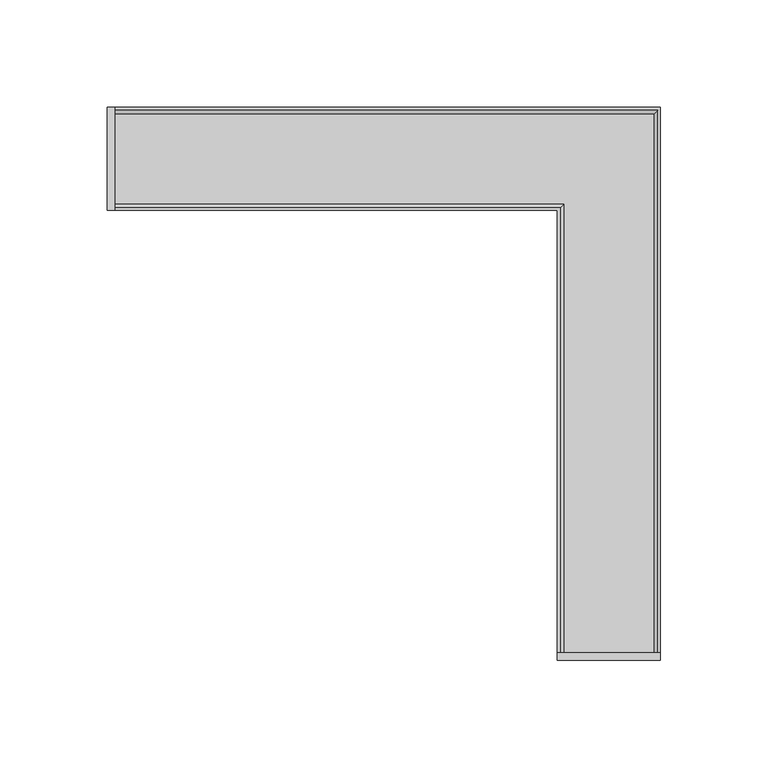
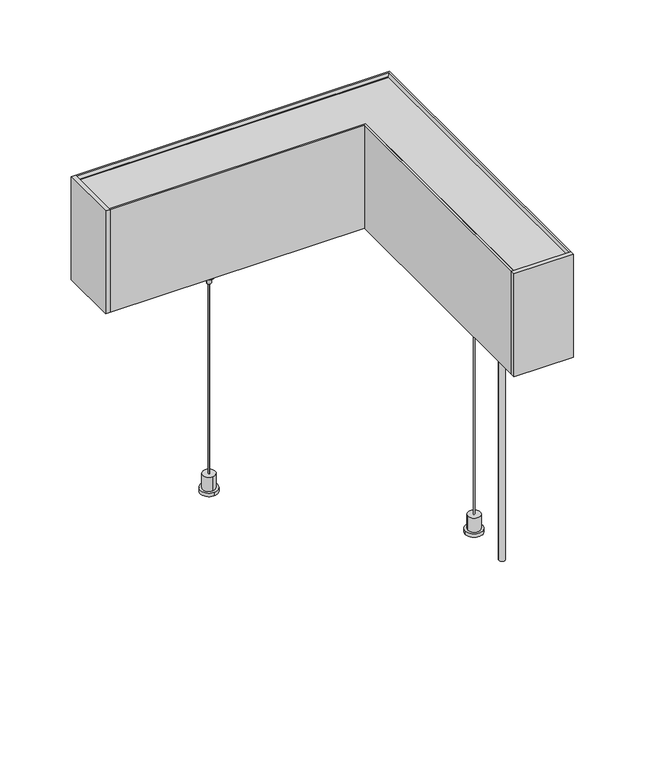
"""IFC4 building model written with IfcOpenShell, lengths in millimetres: light fixture geometry, KLUŚ - SERPENT - ZW L90 : Silver Anodized - 3000 K - 1190 lm - up, down."""

from ifc_helpers import new_model, si_unit, point, frame, frame_2d, origin, origin_with_axes, place, context, project, spatial, polyline, circle_curve, trimmed, segment, composite_curve, outline, extrude, faceted_brep, source, transform, mapped, element, save
from ifc_brep_helpers import plane_surface, revolved_surface, advanced_brep


def light_fixture_445db888(model_context):
    return source(origin(), model_context, "Body", "SolidModel", [
        advanced_brep(
        [(119.0, -20.85, 195.8), (111.0, -20.85, 195.8), (111.0, -20.85, 195.0), (119.0, -20.85, 195.0), (129.0, -34.85, 195.0), (134.95, -34.85, 200.3344882), (134.95, -34.85, 209.5), (134.15, -34.85, 209.5), (134.15, -34.85, 200.691693), (128.6938864, -34.85, 195.8), (101.3061136, -34.85, 195.8), (95.85, -34.85, 200.691693), (95.85, -34.85, 209.5), (95.05, -34.85, 209.5), (95.05, -34.85, 200.3344882), (101.0, -34.85, 195.0), (129.0, -6.85, 195.0), (101.0, -6.85, 195.0), (95.05, -6.85, 200.3344882), (95.05, -6.85, 209.5), (95.85, -6.85, 209.5), (95.85, -6.85, 200.691693), (101.3061136, -6.85, 195.8), (128.6938864, -6.85, 195.8), (134.15, -6.85, 200.691693), (134.15, -6.85, 209.5), (134.95, -6.85, 209.5), (134.95, -6.85, 200.3344882)],
        [
            (0, 1, circle_curve(frame((115.0, -20.85, 195.8), z_axis=(0.0, 0.0, 1.0), x_axis=(1.0, 0.0, 0.0)), 4.0)),
            (1, 2),
            (2, 3, circle_curve(frame((115.0, -20.85, 195.0), z_axis=(0.0, 0.0, -1.0), x_axis=(1.0, 0.0, 0.0)), 4.0)),
            (3, 0),
            (3, 2, circle_curve(frame((115.0, -20.85, 195.0), z_axis=(0.0, 0.0, -1.0), x_axis=(1.0, 0.0, 0.0)), 4.0)),
            (1, 0, circle_curve(frame((115.0, -20.85, 195.8), z_axis=(0.0, 0.0, 1.0), x_axis=(1.0, 0.0, 0.0)), 4.0)),
            (4, 5),
            (5, 6),
            (6, 7),
            (7, 8),
            (8, 9),
            (9, 10),
            (10, 11),
            (11, 12),
            (12, 13),
            (13, 14),
            (14, 15),
            (15, 4),
            (16, 17),
            (17, 18),
            (18, 19),
            (19, 20),
            (20, 21),
            (21, 22),
            (22, 23),
            (23, 24),
            (24, 25),
            (25, 26),
            (26, 27),
            (27, 16),
            (15, 17),
            (16, 4),
            (14, 18),
            (13, 19),
            (12, 20),
            (11, 21),
            (10, 22),
            (9, 23),
            (8, 24),
            (7, 25),
            (6, 26),
            (5, 27),
        ],
        [
            revolved_surface(polyline([(119.0, -20.85, 195.8), (119.0, -20.85, 195.0)]), (115.0, -20.85, 195.0), (0.0, 0.0, 1.0)),
            plane_surface(frame((115.0, -34.85, 209.5), z_axis=(0.0, -1.0, 0.0), x_axis=(0.0, 0.0, 1.0))),
            plane_surface(frame((115.0, -6.85, 209.5), z_axis=(0.0, 1.0, 0.0), x_axis=(0.0, 0.0, 1.0))),
            plane_surface(frame((129.0, -34.85, 195.0), z_axis=(0.0, 0.0, -1.0), x_axis=(0.0, 1.0, 0.0))),
            plane_surface(frame((101.0, -34.85, 195.0), z_axis=(-0.6675453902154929, 0.0, -0.7445691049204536), x_axis=(0.0, 1.0, 0.0))),
            plane_surface(frame((95.05, -34.85, 200.3344882), z_axis=(-1.0, 0.0, 0.0), x_axis=(0.0, 1.0, 0.0))),
            plane_surface(frame((95.05, -34.85, 209.5), z_axis=(0.0, 0.0, 1.0), x_axis=(0.0, 1.0, 0.0))),
            plane_surface(frame((95.85, -34.85, 209.5), z_axis=(1.0, 0.0, 0.0), x_axis=(0.0, 1.0, 0.0))),
            plane_surface(frame((95.85, -34.85, 200.691693), z_axis=(0.6675453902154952, 0.0, 0.7445691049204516), x_axis=(0.0, 1.0, 0.0))),
            plane_surface(frame((101.3061136, -34.85, 195.8), z_axis=(0.0, 0.0, 1.0), x_axis=(0.0, 1.0, 0.0))),
            plane_surface(frame((128.6938864, -34.85, 195.8), z_axis=(-0.6675453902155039, 0.0, 0.7445691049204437), x_axis=(0.0, 1.0, 0.0))),
            plane_surface(frame((134.15, -34.85, 200.691693), z_axis=(-1.0, 0.0, 0.0), x_axis=(0.0, 1.0, 0.0))),
            plane_surface(frame((134.15, -34.85, 209.5), z_axis=(0.0, 0.0, 1.0), x_axis=(0.0, 1.0, 0.0))),
            plane_surface(frame((134.95, -34.85, 209.5), z_axis=(1.0, 0.0, 0.0), x_axis=(0.0, 1.0, 0.0))),
            plane_surface(frame((134.95, -34.85, 200.3344882), z_axis=(0.6675453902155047, 0.0, -0.7445691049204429), x_axis=(0.0, 1.0, 0.0))),
        ],
        [
            (0, [[1, 2, 3, 4]]),
            (0, [[5, -2, 6, -4]]),
            (1, [[7, 8, 9, 10, 11, 12, 13, 14, 15, 16, 17, 18]]),
            (2, [[19, 20, 21, 22, 23, 24, 25, 26, 27, 28, 29, 30]]),
            (3, [[31, -19, 32, -18], [-5, -3]]),
            (4, [[33, -20, -31, -17]]),
            (5, [[34, -21, -33, -16]]),
            (6, [[35, -22, -34, -15]]),
            (7, [[36, -23, -35, -14]]),
            (8, [[37, -24, -36, -13]]),
            (9, [[38, -25, -37, -12], [-6, -1]]),
            (10, [[39, -26, -38, -11]]),
            (11, [[40, -27, -39, -10]]),
            (12, [[41, -28, -40, -9]]),
            (13, [[42, -29, -41, -8]]),
            (14, [[-32, -30, -42, -7]]),
        ],
    ),
        extrude(outline(composite_curve([segment(trimmed(circle_curve(frame_2d((115.0, -20.85)), 0.5), [point((114.5, -20.85))], [point((115.5, -20.85))], False, "CARTESIAN"), True, "CONTINUOUS"), segment(trimmed(circle_curve(frame_2d((115.0, -20.85)), 0.5), [point((115.5, -20.85))], [point((114.5, -20.85))], False, "CARTESIAN"), True, "CONTINUOUS")], self_intersect=False)), frame((0.0, 0.0, 15.0), z_axis=(0.0, 0.0, 1.0), x_axis=(1.0, 0.0, 0.0)), (0.0, 0.0, 1.0), 163.0),
        extrude(outline(composite_curve([segment(trimmed(circle_curve(frame_2d((115.0, -20.85)), 5.0), [point((110.0, -20.85))], [point((120.0, -20.85))], False, "CARTESIAN"), True, "CONTINUOUS"), segment(trimmed(circle_curve(frame_2d((115.0, -20.85)), 5.0), [point((120.0, -20.85))], [point((110.0, -20.85))], False, "CARTESIAN"), True, "CONTINUOUS")], self_intersect=False)), frame((0.0, 0.0, 3.0), z_axis=(0.0, 0.0, 1.0), x_axis=(1.0, 0.0, 0.0)), (0.0, 0.0, 1.0), 12.0),
        extrude(outline(composite_curve([segment(trimmed(circle_curve(frame_2d((115.0, -20.85)), 7.0), [point((108.0, -20.85))], [point((122.0, -20.85))], False, "CARTESIAN"), True, "CONTINUOUS"), segment(trimmed(circle_curve(frame_2d((115.0, -20.85)), 7.0), [point((122.0, -20.85))], [point((108.0, -20.85))], False, "CARTESIAN"), True, "CONTINUOUS")], self_intersect=False)), origin_with_axes(), (0.0, 0.0, 1.0), 3.0),
        extrude(outline(composite_curve([segment(trimmed(circle_curve(frame_2d((115.0, -20.85)), 1.75), [point((115.0, -19.1))], [point((115.0, -22.6))], False, "CARTESIAN"), True, "CONTINUOUS"), segment(trimmed(circle_curve(frame_2d((115.0, -20.85)), 1.75), [point((115.0, -22.6))], [point((115.0, -19.1))], False, "CARTESIAN"), True, "CONTINUOUS")], self_intersect=False)), frame((0.0, 0.0, 178.0), z_axis=(0.0, 0.0, 1.0), x_axis=(1.0, 0.0, 0.0)), (0.0, 0.0, 1.0), 5.0),
        extrude(outline(composite_curve([segment(trimmed(circle_curve(frame_2d((115.0, -20.85)), 4.0), [point((111.0, -20.85))], [point((119.0, -20.85))], False, "CARTESIAN"), True, "CONTINUOUS"), segment(trimmed(circle_curve(frame_2d((115.0, -20.85)), 4.0), [point((119.0, -20.85))], [point((111.0, -20.85))], False, "CARTESIAN"), True, "CONTINUOUS")], self_intersect=False)), frame((0.0, 0.0, 183.0), z_axis=(0.0, 0.0, 1.0), x_axis=(1.0, 0.0, 0.0)), (0.0, 0.0, 1.0), 12.8),
        extrude(outline(composite_curve([segment(trimmed(circle_curve(frame_2d((115.0, -20.85)), 10.0), [point((105.0, -20.85))], [point((125.0, -20.85))], False, "CARTESIAN"), True, "CONTINUOUS"), segment(trimmed(circle_curve(frame_2d((115.0, -20.85)), 10.0), [point((125.0, -20.85))], [point((105.0, -20.85))], False, "CARTESIAN"), True, "CONTINUOUS")], self_intersect=False)), frame((0.0, 0.0, 195.8), z_axis=(0.0, 0.0, 1.0), x_axis=(1.0, 0.0, 0.0)), (0.0, 0.0, 1.0), 2.0),
        extrude(outline(polyline([(139.0, -118.5), (91.0, -118.5), (91.0, -115.0), (139.0, -115.0), (139.0, -118.5)])), frame((0.0, 0.0, 200.0), z_axis=(0.0, 0.0, 1.0), x_axis=(1.0, 0.0, 0.0)), (0.0, 0.0, 1.0), 88.0),
        extrude(outline(polyline([(-118.5, 91.0), (-118.5, 139.0), (-115.0, 139.0), (-115.0, 91.0), (-118.5, 91.0)])), frame((0.0, 0.0, 200.0), z_axis=(0.0, 0.0, 1.0), x_axis=(1.0, 0.0, 0.0)), (0.0, 0.0, 1.0), 88.0),
        advanced_brep(
        [(-21.0, 119.15, 195.8), (-21.0, 119.15, 195.0), (-21.0, 111.15, 195.0), (-21.0, 111.15, 195.8), (-35.0, 129.15, 195.0), (-35.0, 101.15, 195.0), (-35.0, 95.2, 200.3344882), (-35.0, 95.2, 209.5), (-35.0, 96.0, 209.5), (-35.0, 96.0, 200.691693), (-35.0, 101.4561136, 195.8), (-35.0, 128.8438864, 195.8), (-35.0, 134.3, 200.691693), (-35.0, 134.3, 209.5), (-35.0, 135.1, 209.5), (-35.0, 135.1, 200.3344882), (-7.0, 129.15, 195.0), (-7.0, 135.1, 200.3344882), (-7.0, 135.1, 209.5), (-7.0, 134.3, 209.5), (-7.0, 134.3, 200.691693), (-7.0, 128.8438864, 195.8), (-7.0, 101.4561136, 195.8), (-7.0, 96.0, 200.691693), (-7.0, 96.0, 209.5), (-7.0, 95.2, 209.5), (-7.0, 95.2, 200.3344882), (-7.0, 101.15, 195.0)],
        [
            (0, 1),
            (1, 2, circle_curve(frame((-21.0, 115.15, 195.0), z_axis=(0.0, 0.0, -1.0), x_axis=(0.0, 1.0, 0.0)), 4.0)),
            (2, 3),
            (3, 0, circle_curve(frame((-21.0, 115.15, 195.8), z_axis=(0.0, 0.0, 1.0), x_axis=(0.0, 1.0, 0.0)), 4.0)),
            (0, 3, circle_curve(frame((-21.0, 115.15, 195.8), z_axis=(0.0, 0.0, 1.0), x_axis=(0.0, 1.0, 0.0)), 4.0)),
            (2, 1, circle_curve(frame((-21.0, 115.15, 195.0), z_axis=(0.0, 0.0, -1.0), x_axis=(0.0, 1.0, 0.0)), 4.0)),
            (4, 5),
            (5, 6),
            (6, 7),
            (7, 8),
            (8, 9),
            (9, 10),
            (10, 11),
            (11, 12),
            (12, 13),
            (13, 14),
            (14, 15),
            (15, 4),
            (16, 17),
            (17, 18),
            (18, 19),
            (19, 20),
            (20, 21),
            (21, 22),
            (22, 23),
            (23, 24),
            (24, 25),
            (25, 26),
            (26, 27),
            (27, 16),
            (4, 16),
            (27, 5),
            (26, 6),
            (25, 7),
            (24, 8),
            (23, 9),
            (22, 10),
            (21, 11),
            (20, 12),
            (19, 13),
            (18, 14),
            (17, 15),
        ],
        [
            revolved_surface(polyline([(-21.0, 119.15, 195.8), (-21.0, 119.15, 195.0)]), (-21.0, 115.15, 195.0), (0.0, 0.0, 1.0)),
            plane_surface(frame((-35.0, 115.15, 209.5), z_axis=(-1.0, 0.0, 0.0), x_axis=(0.0, 0.0, 1.0))),
            plane_surface(frame((-7.0, 115.15, 209.5), z_axis=(1.0, 0.0, 0.0), x_axis=(0.0, 0.0, 1.0))),
            plane_surface(frame((-35.0, 129.15, 195.0), z_axis=(0.0, 0.0, -1.0), x_axis=(1.0, 0.0, 0.0))),
            plane_surface(frame((-35.0, 101.15, 195.0), z_axis=(0.0, -0.6675453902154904, -0.7445691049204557), x_axis=(1.0, 0.0, 0.0))),
            plane_surface(frame((-35.0, 95.2, 200.3344882), z_axis=(0.0, -1.0, 0.0), x_axis=(1.0, 0.0, 0.0))),
            plane_surface(frame((-35.0, 95.2, 209.5), z_axis=(0.0, 0.0, 1.0), x_axis=(1.0, 0.0, 0.0))),
            plane_surface(frame((-35.0, 96.0, 209.5), z_axis=(0.0, 1.0, 0.0), x_axis=(1.0, 0.0, 0.0))),
            plane_surface(frame((-35.0, 96.0, 200.691693), z_axis=(0.0, 0.6675453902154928, 0.7445691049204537), x_axis=(1.0, 0.0, 0.0))),
            plane_surface(frame((-35.0, 101.4561136, 195.8), z_axis=(0.0, 0.0, 1.0), x_axis=(1.0, 0.0, 0.0))),
            plane_surface(frame((-35.0, 128.8438864, 195.8), z_axis=(0.0, -0.6675453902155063, 0.7445691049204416), x_axis=(1.0, 0.0, 0.0))),
            plane_surface(frame((-35.0, 134.3, 200.691693), z_axis=(0.0, -1.0, 0.0), x_axis=(1.0, 0.0, 0.0))),
            plane_surface(frame((-35.0, 134.3, 209.5), z_axis=(0.0, 0.0, 1.0), x_axis=(1.0, 0.0, 0.0))),
            plane_surface(frame((-35.0, 135.1, 209.5), z_axis=(0.0, 1.0, 0.0), x_axis=(1.0, 0.0, 0.0))),
            plane_surface(frame((-35.0, 135.1, 200.3344882), z_axis=(0.0, 0.6675453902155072, -0.7445691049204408), x_axis=(1.0, 0.0, 0.0))),
        ],
        [
            (0, [[1, 2, 3, 4]]),
            (0, [[-1, 5, -3, 6]]),
            (1, [[7, 8, 9, 10, 11, 12, 13, 14, 15, 16, 17, 18]]),
            (2, [[19, 20, 21, 22, 23, 24, 25, 26, 27, 28, 29, 30]]),
            (3, [[-7, 31, -30, 32], [-2, -6]]),
            (4, [[-8, -32, -29, 33]]),
            (5, [[-9, -33, -28, 34]]),
            (6, [[-10, -34, -27, 35]]),
            (7, [[-11, -35, -26, 36]]),
            (8, [[-12, -36, -25, 37]]),
            (9, [[-13, -37, -24, 38], [-4, -5]]),
            (10, [[-14, -38, -23, 39]]),
            (11, [[-15, -39, -22, 40]]),
            (12, [[-16, -40, -21, 41]]),
            (13, [[-17, -41, -20, 42]]),
            (14, [[-18, -42, -19, -31]]),
        ],
    ),
        extrude(outline(composite_curve([segment(trimmed(circle_curve(frame_2d((-21.0, 115.15)), 0.5), [point((-21.0, 114.65))], [point((-21.0, 115.65))], False, "CARTESIAN"), True, "CONTINUOUS"), segment(trimmed(circle_curve(frame_2d((-21.0, 115.15)), 0.5), [point((-21.0, 115.65))], [point((-21.0, 114.65))], False, "CARTESIAN"), True, "CONTINUOUS")], self_intersect=False)), frame((0.0, 0.0, 15.0), z_axis=(0.0, 0.0, 1.0), x_axis=(1.0, 0.0, 0.0)), (0.0, 0.0, 1.0), 163.0),
        extrude(outline(composite_curve([segment(trimmed(circle_curve(frame_2d((-21.0, 115.15)), 5.0), [point((-21.0, 110.15))], [point((-21.0, 120.15))], False, "CARTESIAN"), True, "CONTINUOUS"), segment(trimmed(circle_curve(frame_2d((-21.0, 115.15)), 5.0), [point((-21.0, 120.15))], [point((-21.0, 110.15))], False, "CARTESIAN"), True, "CONTINUOUS")], self_intersect=False)), frame((0.0, 0.0, 3.0), z_axis=(0.0, 0.0, 1.0), x_axis=(1.0, 0.0, 0.0)), (0.0, 0.0, 1.0), 12.0),
        extrude(outline(composite_curve([segment(trimmed(circle_curve(frame_2d((-21.0, 115.15)), 7.0), [point((-21.0, 108.15))], [point((-21.0, 122.15))], False, "CARTESIAN"), True, "CONTINUOUS"), segment(trimmed(circle_curve(frame_2d((-21.0, 115.15)), 7.0), [point((-21.0, 122.15))], [point((-21.0, 108.15))], False, "CARTESIAN"), True, "CONTINUOUS")], self_intersect=False)), origin_with_axes(), (0.0, 0.0, 1.0), 3.0),
        extrude(outline(composite_curve([segment(trimmed(circle_curve(frame_2d((-21.0, 115.15)), 1.75), [point((-19.25, 115.15))], [point((-22.75, 115.15))], False, "CARTESIAN"), True, "CONTINUOUS"), segment(trimmed(circle_curve(frame_2d((-21.0, 115.15)), 1.75), [point((-22.75, 115.15))], [point((-19.25, 115.15))], False, "CARTESIAN"), True, "CONTINUOUS")], self_intersect=False)), frame((0.0, 0.0, 178.0), z_axis=(0.0, 0.0, 1.0), x_axis=(1.0, 0.0, 0.0)), (0.0, 0.0, 1.0), 5.0),
        extrude(outline(composite_curve([segment(trimmed(circle_curve(frame_2d((-21.0, 115.15)), 4.0), [point((-21.0, 111.15))], [point((-21.0, 119.15))], False, "CARTESIAN"), True, "CONTINUOUS"), segment(trimmed(circle_curve(frame_2d((-21.0, 115.15)), 4.0), [point((-21.0, 119.15))], [point((-21.0, 111.15))], False, "CARTESIAN"), True, "CONTINUOUS")], self_intersect=False)), frame((0.0, 0.0, 183.0), z_axis=(0.0, 0.0, 1.0), x_axis=(1.0, 0.0, 0.0)), (0.0, 0.0, 1.0), 12.8),
        extrude(outline(composite_curve([segment(trimmed(circle_curve(frame_2d((-21.0, 115.15)), 10.0), [point((-21.0, 105.15))], [point((-21.0, 125.15))], False, "CARTESIAN"), True, "CONTINUOUS"), segment(trimmed(circle_curve(frame_2d((-21.0, 115.15)), 10.0), [point((-21.0, 125.15))], [point((-21.0, 105.15))], False, "CARTESIAN"), True, "CONTINUOUS")], self_intersect=False)), frame((0.0, 0.0, 195.8), z_axis=(0.0, 0.0, 1.0), x_axis=(1.0, 0.0, 0.0)), (0.0, 0.0, 1.0), 2.0),
        faceted_brep([(-115.0, 95.05, 200.0), (-115.0, 91.0, 200.0), (-115.0, 91.0, 288.0), (-115.0, 92.35, 288.0), (-115.0, 93.8950868, 286.1989148), (-115.0, 92.35, 284.5), (-115.0, 92.35, 208.7), (-115.0, 95.05, 208.7), (95.05, -115.0, 200.0), (95.05, -115.0, 208.7), (92.35, -115.0, 208.7), (92.35, -115.0, 284.5), (93.8950868, -115.0, 286.1989148), (92.35, -115.0, 288.0), (91.0, -115.0, 288.0), (91.0, -115.0, 200.0), (95.05, 95.05, 200.0), (91.0, 91.0, 200.0), (91.0, 91.0, 288.0), (92.35, 92.35, 288.0), (93.8950868, 93.8950868, 286.1989148), (92.35, 92.35, 284.5), (92.35, 92.35, 208.7), (95.05, 95.05, 208.7)], [[[0, 1, 2, 3, 4, 5, 6, 7]], [[8, 9, 10, 11, 12, 13, 14, 15]], [[1, 0, 16, 8, 15, 17]], [[2, 1, 17, 18]], [[3, 2, 18, 14, 13, 19]], [[4, 3, 19, 20]], [[5, 4, 20, 21]], [[6, 5, 21, 22]], [[7, 6, 22, 10, 9, 23]], [[0, 7, 23, 16]], [[18, 17, 15, 14]], [[20, 19, 13, 12]], [[21, 20, 12, 11]], [[22, 21, 11, 10]], [[16, 23, 9, 8]]]),
        faceted_brep([(-115.0, 134.95, 200.0), (-115.0, 134.95, 208.7), (-115.0, 137.65, 208.7), (-115.0, 137.65, 284.5), (-115.0, 136.15, 286.2514719), (-115.0, 137.65, 288.0), (-115.0, 139.0, 288.0), (-115.0, 139.0, 200.0), (134.95, -115.0, 200.0), (139.0, -115.0, 200.0), (139.0, -115.0, 288.0), (137.65, -115.0, 288.0), (136.15, -115.0, 286.2514719), (137.65, -115.0, 284.5), (137.65, -115.0, 208.7), (134.95, -115.0, 208.7), (134.95, 134.95, 200.0), (134.95, 134.95, 208.7), (137.65, 137.65, 208.7), (137.65, 137.65, 284.5), (136.15, 136.15, 286.2514719), (137.65, 137.65, 288.0), (139.0, 139.0, 288.0), (139.0, 139.0, 200.0)], [[[0, 1, 2, 3, 4, 5, 6, 7]], [[8, 9, 10, 11, 12, 13, 14, 15]], [[1, 0, 16, 17]], [[2, 1, 17, 15, 14, 18]], [[3, 2, 18, 19]], [[4, 3, 19, 20]], [[5, 4, 20, 21]], [[6, 5, 21, 11, 10, 22]], [[7, 6, 22, 23]], [[0, 7, 23, 9, 8, 16]], [[17, 16, 8, 15]], [[19, 18, 14, 13]], [[20, 19, 13, 12]], [[21, 20, 12, 11]], [[23, 22, 10, 9]]]),
        extrude(outline(composite_curve([segment(trimmed(circle_curve(frame_2d((115.0, -59.85)), 2.5), [point((117.5, -59.85))], [point((112.5, -59.85))], False, "CARTESIAN"), True, "CONTINUOUS"), segment(trimmed(circle_curve(frame_2d((115.0, -59.85)), 2.5), [point((112.5, -59.85))], [point((117.5, -59.85))], False, "CARTESIAN"), True, "CONTINUOUS")], self_intersect=False)), origin_with_axes(), (0.0, 0.0, 1.0), 219.0),
        extrude(outline(polyline([(-115.0, 92.35), (-115.0, 137.65), (137.65, 137.65), (137.65, -115.0), (92.35, -115.0), (92.35, 92.35), (-115.0, 92.35)])), frame((0.0, 0.0, 283.0), z_axis=(0.0, 0.0, 1.0), x_axis=(1.0, 0.0, 0.0)), (0.0, 0.0, 1.0), 1.5),
        extrude(outline(polyline([(-115.0, 92.35), (-115.0, 137.65), (137.65, 137.65), (137.65, -115.0), (92.35, -115.0), (92.35, 92.35), (-115.0, 92.35)])), frame((0.0, 0.0, 209.5), z_axis=(0.0, 0.0, 1.0), x_axis=(1.0, 0.0, 0.0)), (0.0, 0.0, 1.0), 1.5),
        extrude(outline(polyline([(-115.0, 92.35), (-115.0, 137.65), (137.65, 137.65), (137.65, -115.0), (92.35, -115.0), (92.35, 92.35), (-115.0, 92.35)])), frame((0.0, 0.0, 219.0), z_axis=(0.0, 0.0, 1.0), x_axis=(1.0, 0.0, 0.0)), (0.0, 0.0, 1.0), 2.0),
        extrude(outline(polyline([(-115.0, 92.35), (-115.0, 137.65), (137.65, 137.65), (137.65, -115.0), (92.35, -115.0), (92.35, 92.35), (-115.0, 92.35)])), frame((0.0, 0.0, 254.5), z_axis=(0.0, 0.0, 1.0), x_axis=(1.0, 0.0, 0.0)), (0.0, 0.0, 1.0), 1.5),
    ])


if __name__ == "__main__":
    model = new_model("IFC4")
    model_context = context("Model", 3, world=origin())
    ifc_project = project(units=[si_unit("LENGTHUNIT", "METRE", prefix="MILLI")], contexts=[model_context])
    site = spatial("IfcSite", under=ifc_project)
    building = spatial("IfcBuilding", under=site)
    placement = place(None, origin())
    light_fixture_shape = light_fixture_445db888(model_context)
    element("IfcLightFixture", 1, ObjectType="KLUŚ - SERPENT - ZW L90 : Silver Anodized - 3000 K - 1190 lm - up, down", at=placement, inside=building, context=model_context, shape_type="MappedRepresentation", body=[
        mapped(light_fixture_shape, transform((0.0, 0.0, 0.0), x_axis=(1.0, 0.0, 0.0), y_axis=(0.0, 1.0, 0.0), z_axis=(0.0, 0.0, 1.0))),
    ])
    save(model, "model.ifc")
